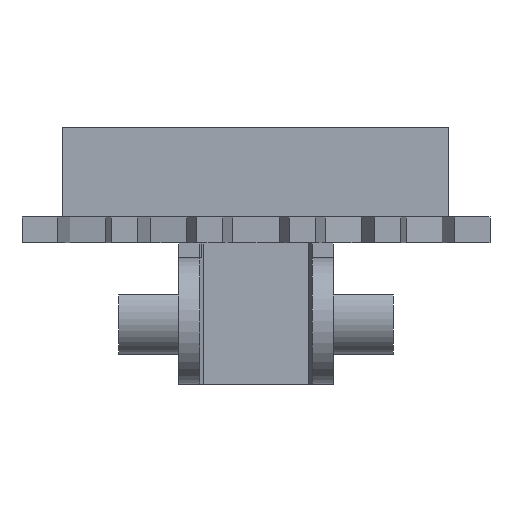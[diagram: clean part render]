
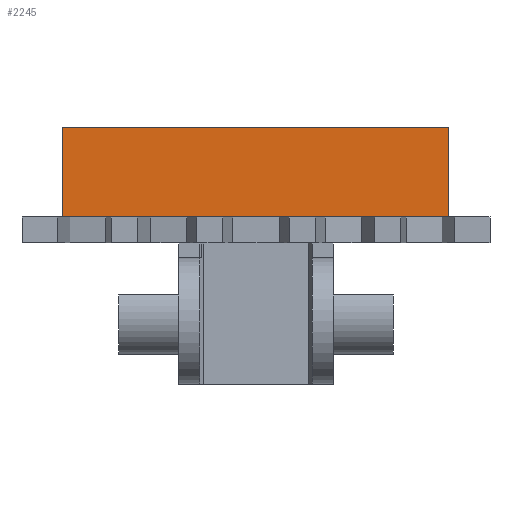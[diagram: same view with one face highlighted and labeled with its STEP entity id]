
A CAD part, left-side view. The second image highlights one B-rep face of the part: STEP entity #2245.
In plain terms, the highlighted planar face has unit normal (-1, 0, 0).
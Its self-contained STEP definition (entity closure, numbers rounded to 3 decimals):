
#681 = DIRECTION ( 'NONE',  ( 0., 0., -1. ) ) ;
#769 = DIRECTION ( 'NONE',  ( 0., -1., 0. ) ) ;
#770 = VECTOR ( 'NONE', #769, 1000. ) ;
#771 = CARTESIAN_POINT ( 'NONE',  ( -4.209, -26., 48.6 ) ) ;
#772 = LINE ( 'NONE', #771, #770 ) ;
#851 = CARTESIAN_POINT ( 'NONE',  ( -4.209, -26., 48.6 ) ) ;
#856 = VECTOR ( 'NONE', #681, 1000. ) ;
#857 = CARTESIAN_POINT ( 'NONE',  ( -4.209, -26., 48.6 ) ) ;
#858 = LINE ( 'NONE', #857, #856 ) ;
#889 = CARTESIAN_POINT ( 'NONE',  ( -4.209, 26., 48.6 ) ) ;
#890 = LINE ( 'NONE', #889, #897 ) ;
#896 = DIRECTION ( 'NONE',  ( 0., 0., -1. ) ) ;
#897 = VECTOR ( 'NONE', #896, 1000. ) ;
#906 = CARTESIAN_POINT ( 'NONE',  ( -4.209, 26., 48.6 ) ) ;
#1068 = DIRECTION ( 'NONE',  ( 1., 0., 0. ) ) ;
#1077 = DIRECTION ( 'NONE',  ( 0., 1., 0. ) ) ;
#1078 = CARTESIAN_POINT ( 'NONE',  ( -4.209, -26., 48.6 ) ) ;
#1084 = AXIS2_PLACEMENT_3D ( 'NONE', #1078, #1068, #1077 ) ;
#1090 = PLANE ( 'NONE',  #1084 ) ;
#1098 = FACE_OUTER_BOUND ( 'NONE', #2250, .T. ) ;
#1250 = VERTEX_POINT ( 'NONE', #2590 ) ;
#1251 = VERTEX_POINT ( 'NONE', #2479 ) ;
#1260 = EDGE_CURVE ( 'NONE', #1250, #1251, #2343, .T. ) ;
#2165 = VERTEX_POINT ( 'NONE', #851 ) ;
#2166 = ORIENTED_EDGE ( 'NONE', *, *, #1260, .T. ) ;
#2167 = EDGE_CURVE ( 'NONE', #2165, #1251, #858, .T. ) ;
#2168 = EDGE_CURVE ( 'NONE', #2173, #2165, #772, .T. ) ;
#2171 = ORIENTED_EDGE ( 'NONE', *, *, #2168, .F. ) ;
#2173 = VERTEX_POINT ( 'NONE', #906 ) ;
#2176 = EDGE_CURVE ( 'NONE', #2173, #1250, #890, .T. ) ;
#2245 = ADVANCED_FACE ( 'NONE', ( #1098 ), #1090, .F. ) ;
#2250 = EDGE_LOOP ( 'NONE', ( #2166, #2251, #2171, #2252 ) ) ;
#2251 = ORIENTED_EDGE ( 'NONE', *, *, #2167, .F. ) ;
#2252 = ORIENTED_EDGE ( 'NONE', *, *, #2176, .T. ) ;
#2326 = VECTOR ( 'NONE', #2370, 1000. ) ;
#2342 = CARTESIAN_POINT ( 'NONE',  ( -4.209, -26., 36.6 ) ) ;
#2343 = LINE ( 'NONE', #2342, #2326 ) ;
#2370 = DIRECTION ( 'NONE',  ( 0., -1., 0. ) ) ;
#2479 = CARTESIAN_POINT ( 'NONE',  ( -4.209, -26., 36.6 ) ) ;
#2590 = CARTESIAN_POINT ( 'NONE',  ( -4.209, 26., 36.6 ) ) ;
